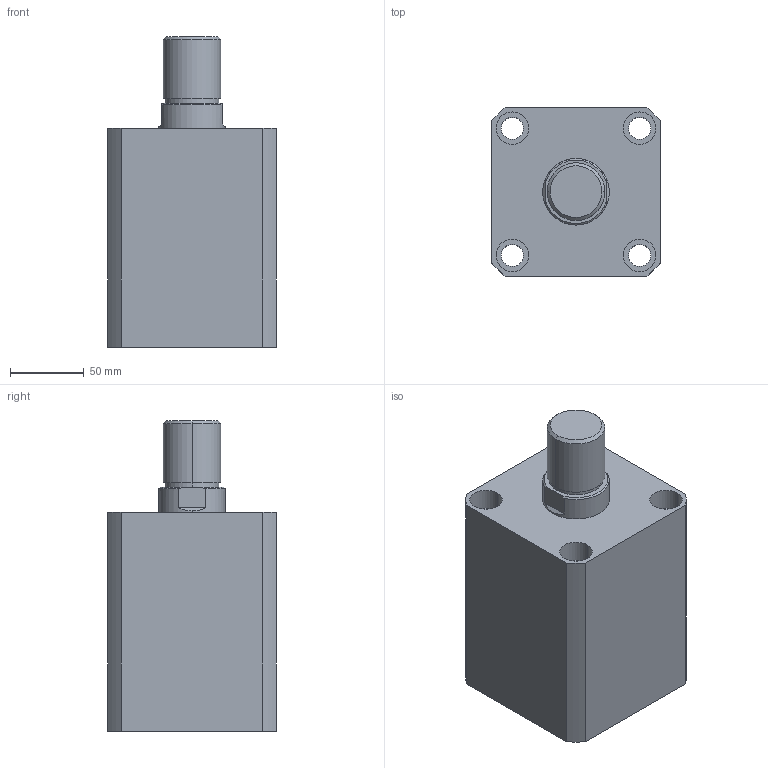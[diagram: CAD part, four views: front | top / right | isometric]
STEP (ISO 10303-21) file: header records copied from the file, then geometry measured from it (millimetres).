
FILE_DESCRIPTION (( 'STEP AP203' ), '1' );
FILE_NAME ('HTB-SDMB80-70W.STEP', '2019-10-09T06:10:19', ( '微软用户' ), ( '微软中国' ), 'SwSTEP 2.0', 'SolidWorks 2012', '' );
FILE_SCHEMA (( 'CONFIG_CONTROL_DESIGN' ));
Length unit declared in the file: millimetre
Products named in the file (3): HTB-SDMB80-70W; HTB-SDMB80-70掛极; HTB-SDMB80-70W活塞杆
Assembly tree (2 placements, depth 2):
  HTB-SDMB80-70W
    HTB-SDMB80-70掛极
    HTB-SDMB80-70W活塞杆
Bounding box: 114 x 114 x 210 mm (x, y, z)
Volume: 1609165.2 mm3; surface area: 196609 mm2
Topology: 2 solids, 2 shells, 141 faces, 337 edges, 222 vertices
Faces by surface type: plane 67, cylinder 48, bspline 16, torus 6, cone 4
Entity records: 5180 total; most frequent: CARTESIAN_POINT 1597, ORIENTED_EDGE 674, DIRECTION 669, EDGE_CURVE 337, AXIS2_PLACEMENT_3D 242, VERTEX_POINT 222, LINE 185, VECTOR 185
